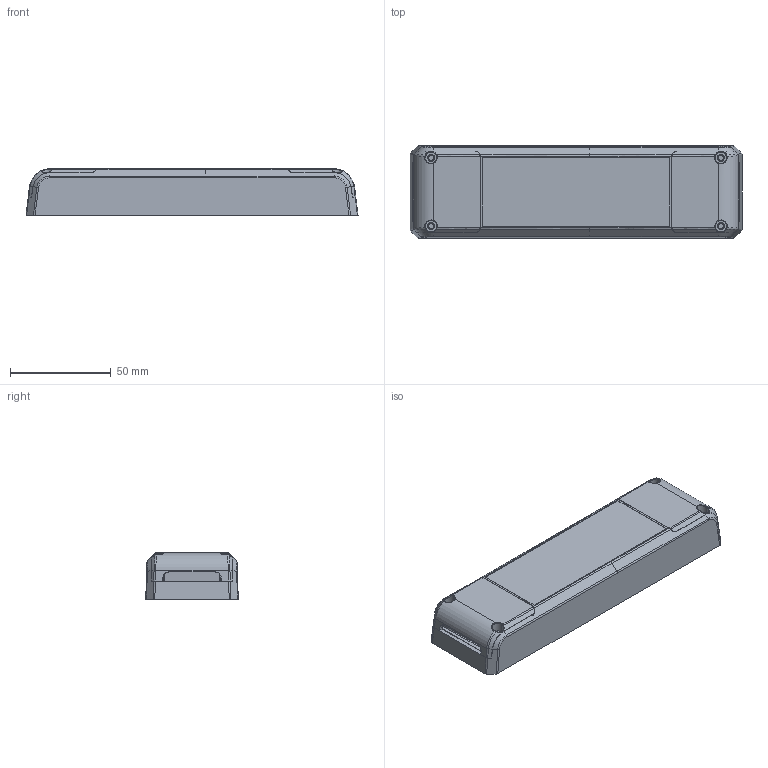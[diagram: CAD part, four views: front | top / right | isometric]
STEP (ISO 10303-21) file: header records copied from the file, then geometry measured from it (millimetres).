
FILE_DESCRIPTION(('Creo Elements/Direct Modeling STEP Export'),'2;1');
FILE_NAME('dap-04.stp','2015-07-29T 9:23:34',(''),(''),'PTC Creo Elements/Direct Modeling STEP processor for AP214 (Solid Model)','PTC Creo Elements/Direct Modeling 19.0 09-May-2014 (C) Parametric Technology GmbH','');
FILE_SCHEMA(('AUTOMOTIVE_DESIGN { 1 0 10303 214 1 1 1 1 }'));
Length unit declared in the file: millimetre
Products named in the file (26): P1.2; 3pin.1.2.1.1; PCb; P2; P1.2.1.1.1; gy-13A83y3t2; LCM-60-20120906.stp; 3pin.1.2.1.2; hs; CASE; a2.1.1; ¨■¥ñ.1.1; ¤ïÊl; pcb; a1; a3; a2; JS100107.1_2; ¤ïÊl:1; pcb_1; a1_1; J; LCM-60TYPE-A
Assembly tree (28 placements, depth 8):
  a1
    LCM-60TYPE-A
      a3
        J
          a1_1
            pcb_1
              ¤ïÊl:1
                JS100107.1_2  x2
        a1
        a2
          a3
            a1
              pcb
                ¤ïÊl
            ¨■¥ñ.1.1
            a2.1.1  x2
          CASE
          hs
        3pin.1.2.1.2
    LCM-60-20120906.stp
      gy-13A83y3t2
    P1.2.1.1.1  x2
    P2
    PCb
    3pin.1.2.1.1
    P1.2
Bounding box: 165 x 46 x 23 mm (x, y, z)
Volume: 89792.6 mm3; surface area: 92391.7 mm2
Topology: 8 solids, 8 shells, 737 faces, 1926 edges, 1260 vertices
Faces by surface type: plane 459, cylinder 142, bspline 112, cone 16, extrusion 8
Entity records: 32060 total; most frequent: CARTESIAN_POINT 16486, ORIENTED_EDGE 3448, DIRECTION 2457, EDGE_CURVE 1724, VERTEX_POINT 1130, VECTOR 1057, LINE 1049, EDGE_LOOP 740
